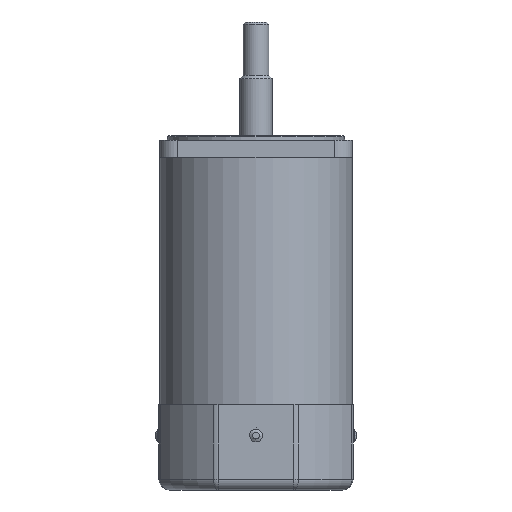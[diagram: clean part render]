
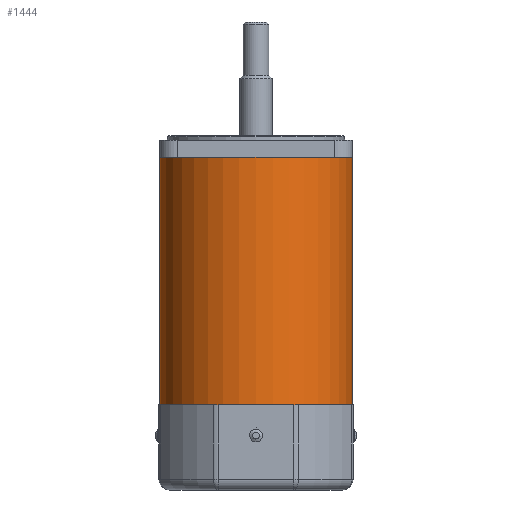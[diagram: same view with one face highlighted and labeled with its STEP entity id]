
A CAD part, front view. The second image highlights one B-rep face of the part: STEP entity #1444.
In plain terms, the highlighted cylindrical face has radius 45 mm (diameter 90 mm), a full revolution.
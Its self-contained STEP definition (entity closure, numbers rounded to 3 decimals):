
#1102 = VERTEX_POINT ( 'NONE', #12996 ) ;
#1111 = VERTEX_POINT ( 'NONE', #13003 ) ;
#1152 = VERTEX_POINT ( 'NONE', #13044 ) ;
#1198 = VERTEX_POINT ( 'NONE', #13090 ) ;
#1444 = ADVANCED_FACE ( 'NONE', ( #10796, #10804 ), #10806, .T. ) ;
#1692 = EDGE_CURVE ( 'NONE', #7898, #7962, #2187, .T. ) ;
#1701 = EDGE_CURVE ( 'NONE', #1111, #1152, #2219, .T. ) ;
#1707 = EDGE_CURVE ( 'NONE', #1152, #7906, #2233, .T. ) ;
#1725 = EDGE_CURVE ( 'NONE', #7906, #7898, #2231, .T. ) ;
#1726 = EDGE_CURVE ( 'NONE', #2730, #2730, #2265, .T. ) ;
#1727 = EDGE_CURVE ( 'NONE', #7784, #1198, #2270, .T. ) ;
#1728 = EDGE_CURVE ( 'NONE', #1111, #7784, #2266, .T. ) ;
#1729 = EDGE_CURVE ( 'NONE', #1102, #7962, #2269, .T. ) ;
#1730 = EDGE_CURVE ( 'NONE', #1198, #1102, #2272, .T. ) ;
#2187 = CIRCLE ( 'NONE', #6656, 45. ) ;
#2219 = CIRCLE ( 'NONE', #6660, 45. ) ;
#2231 = CIRCLE ( 'NONE', #6668, 45. ) ;
#2233 = CIRCLE ( 'NONE', #6664, 45. ) ;
#2265 = CIRCLE ( 'NONE', #6669, 45. ) ;
#2266 = LINE ( 'NONE', #12044, #2271 ) ;
#2269 = LINE ( 'NONE', #12040, #2273 ) ;
#2270 = CIRCLE ( 'NONE', #6670, 45. ) ;
#2271 = VECTOR ( 'NONE', #12039, 1000. ) ;
#2272 = CIRCLE ( 'NONE', #6671, 45. ) ;
#2273 = VECTOR ( 'NONE', #12049, 1000. ) ;
#2730 = VERTEX_POINT ( 'NONE', #3454 ) ;
#3149 = CARTESIAN_POINT ( 'NONE',  ( 27.5, 35.62, -61. ) ) ;
#3263 = CARTESIAN_POINT ( 'NONE',  ( -45., 0., -8. ) ) ;
#3271 = CARTESIAN_POINT ( 'NONE',  ( 0., -45., -8. ) ) ;
#3327 = CARTESIAN_POINT ( 'NONE',  ( -27.5, 35.62, -8. ) ) ;
#3454 = CARTESIAN_POINT ( 'NONE',  ( -45., 0., -134.5 ) ) ;
#4930 = ORIENTED_EDGE ( 'NONE', *, *, #1728, .F. ) ;
#4931 = ORIENTED_EDGE ( 'NONE', *, *, #1727, .F. ) ;
#4932 = ORIENTED_EDGE ( 'NONE', *, *, #1726, .T. ) ;
#5066 = ORIENTED_EDGE ( 'NONE', *, *, #1707, .T. ) ;
#5067 = ORIENTED_EDGE ( 'NONE', *, *, #1701, .T. ) ;
#5070 = ORIENTED_EDGE ( 'NONE', *, *, #1692, .T. ) ;
#5071 = ORIENTED_EDGE ( 'NONE', *, *, #1725, .T. ) ;
#5073 = ORIENTED_EDGE ( 'NONE', *, *, #1730, .F. ) ;
#5074 = ORIENTED_EDGE ( 'NONE', *, *, #1729, .F. ) ;
#6522 = AXIS2_PLACEMENT_3D ( 'NONE', #11303, #11304, #11301 ) ;
#6656 = AXIS2_PLACEMENT_3D ( 'NONE', #11960, #11961, #11962 ) ;
#6660 = AXIS2_PLACEMENT_3D ( 'NONE', #11981, #11982, #11983 ) ;
#6664 = AXIS2_PLACEMENT_3D ( 'NONE', #12000, #12001, #12002 ) ;
#6668 = AXIS2_PLACEMENT_3D ( 'NONE', #12036, #12037, #12038 ) ;
#6669 = AXIS2_PLACEMENT_3D ( 'NONE', #12041, #12042, #12043 ) ;
#6670 = AXIS2_PLACEMENT_3D ( 'NONE', #12045, #12046, #12047 ) ;
#6671 = AXIS2_PLACEMENT_3D ( 'NONE', #12052, #12053, #12054 ) ;
#7784 = VERTEX_POINT ( 'NONE', #3149 ) ;
#7898 = VERTEX_POINT ( 'NONE', #3263 ) ;
#7906 = VERTEX_POINT ( 'NONE', #3271 ) ;
#7962 = VERTEX_POINT ( 'NONE', #3327 ) ;
#10796 = FACE_OUTER_BOUND ( 'NONE', #14419, .T. ) ;
#10804 = FACE_OUTER_BOUND ( 'NONE', #14466, .T. ) ;
#10806 = CYLINDRICAL_SURFACE ( 'NONE', #6522, 45. ) ;
#11301 = DIRECTION ( 'NONE',  ( 1., 0., 0. ) ) ;
#11303 = CARTESIAN_POINT ( 'NONE',  ( 0., 0., -135. ) ) ;
#11304 = DIRECTION ( 'NONE',  ( 0., 0., 1. ) ) ;
#11960 = CARTESIAN_POINT ( 'NONE',  ( 0., 0., -8. ) ) ;
#11961 = DIRECTION ( 'NONE',  ( 0., 0., -1. ) ) ;
#11962 = DIRECTION ( 'NONE',  ( -1., 0., 0. ) ) ;
#11981 = CARTESIAN_POINT ( 'NONE',  ( 0., 0., -8. ) ) ;
#11982 = DIRECTION ( 'NONE',  ( 0., 0., -1. ) ) ;
#11983 = DIRECTION ( 'NONE',  ( -1., 0., 0. ) ) ;
#12000 = CARTESIAN_POINT ( 'NONE',  ( 0., 0., -8. ) ) ;
#12001 = DIRECTION ( 'NONE',  ( 0., 0., -1. ) ) ;
#12002 = DIRECTION ( 'NONE',  ( -1., 0., 0. ) ) ;
#12036 = CARTESIAN_POINT ( 'NONE',  ( 0., 0., -8. ) ) ;
#12037 = DIRECTION ( 'NONE',  ( 0., 0., -1. ) ) ;
#12038 = DIRECTION ( 'NONE',  ( -1., 0., 0. ) ) ;
#12039 = DIRECTION ( 'NONE',  ( 0., 0., -1. ) ) ;
#12040 = CARTESIAN_POINT ( 'NONE',  ( -27.5, 35.62, -135. ) ) ;
#12041 = CARTESIAN_POINT ( 'NONE',  ( 0., 0., -134.5 ) ) ;
#12042 = DIRECTION ( 'NONE',  ( 0., 0., 1. ) ) ;
#12043 = DIRECTION ( 'NONE',  ( -1., 0., 0. ) ) ;
#12044 = CARTESIAN_POINT ( 'NONE',  ( 27.5, 35.62, -135. ) ) ;
#12045 = CARTESIAN_POINT ( 'NONE',  ( 0., 0., -61. ) ) ;
#12046 = DIRECTION ( 'NONE',  ( 0., 0., 1. ) ) ;
#12047 = DIRECTION ( 'NONE',  ( -1., 0., 0. ) ) ;
#12049 = DIRECTION ( 'NONE',  ( 0., 0., 1. ) ) ;
#12052 = CARTESIAN_POINT ( 'NONE',  ( 0., 0., -61. ) ) ;
#12053 = DIRECTION ( 'NONE',  ( 0., 0., 1. ) ) ;
#12054 = DIRECTION ( 'NONE',  ( -1., 0., 0. ) ) ;
#12996 = CARTESIAN_POINT ( 'NONE',  ( -27.5, 35.62, -61. ) ) ;
#13003 = CARTESIAN_POINT ( 'NONE',  ( 27.5, 35.62, -8. ) ) ;
#13044 = CARTESIAN_POINT ( 'NONE',  ( 45., 0., -8. ) ) ;
#13090 = CARTESIAN_POINT ( 'NONE',  ( 0., 45., -61. ) ) ;
#14419 = EDGE_LOOP ( 'NONE', ( #4932 ) ) ;
#14466 = EDGE_LOOP ( 'NONE', ( #4931, #4930, #5067, #5066, #5071, #5070, #5074, #5073 ) ) ;
